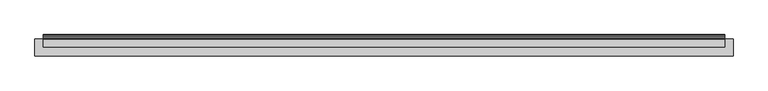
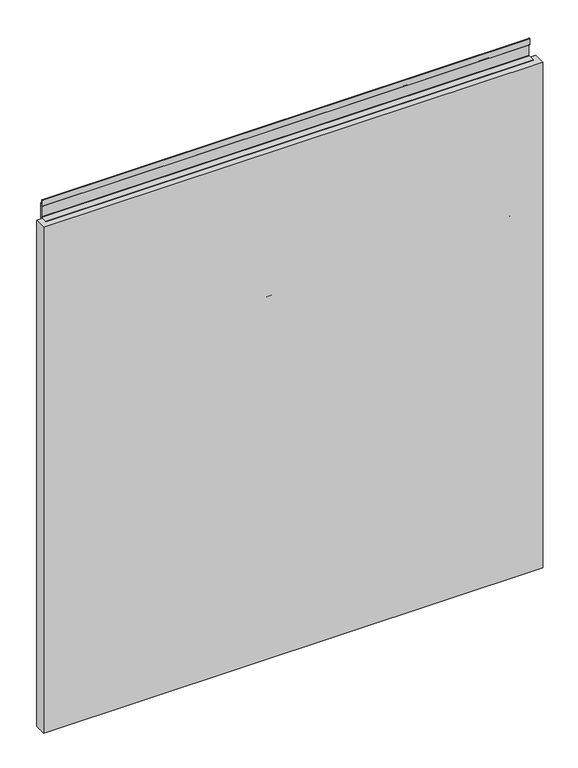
"""IFC4 building model written with IfcOpenShell, lengths in millimetres: furniture geometry, Geiger_GeigerOneCasegoods_WallTileAcceptsTileAbove : Vertical Veneer 42Wx 1.25Dx 45H."""

from ifc_helpers import new_model, si_unit, point, frame, frame_2d, origin, origin_with_axes, place, context, project, spatial, polyline, circle_curve, trimmed, segment, composite_curve, outline, extrude, source, transform, mapped, element, save


def furniture_fe314a8a(model_context):
    return source(origin(), model_context, "Body", "SweptSolid", [
        extrude(outline(composite_curve([segment(polyline([(2.8956, 809.3292), (3.7084, 808.5164), (5.588, 808.5164), (6.4008, 807.729), (6.4008, 794.3178)]), True, "CONTINUOUS"), segment(trimmed(circle_curve(frame_2d((5.5973579, 794.3271579)), 0.8034966), [point((6.4008, 794.3178))], [point((5.0292, 793.759))], False, "CARTESIAN"), True, "CONTINUOUS"), segment(polyline([(5.0292, 793.759), (3.5052, 795.283), (3.5052, 802.2172), (2.6924, 803.0046), (0.7874, 803.0046), (0.0, 803.8174), (0.0, 835.5166), (1.2954, 835.5166), (2.8956, 833.9164), (2.8956, 809.3292)]), True, "CONTINUOUS")], self_intersect=False)), frame((940.8047, 0.0, 0.0), z_axis=(1.0, 0.0, 0.0), x_axis=(0.0, 1.0, 0.0)), (0.0, 0.0, 1.0), 75.9906),
        extrude(outline(composite_curve([segment(polyline([(2.8956, 809.3292), (3.7084, 808.5164), (5.588, 808.5164), (6.4008, 807.729), (6.4008, 794.3178)]), True, "CONTINUOUS"), segment(trimmed(circle_curve(frame_2d((5.5973579, 794.3271579)), 0.8034966), [point((6.4008, 794.3178))], [point((5.0292, 793.759))], False, "CARTESIAN"), True, "CONTINUOUS"), segment(polyline([(5.0292, 793.759), (3.5052, 795.283), (3.5052, 802.2172), (2.6924, 803.0046), (0.7874, 803.0046), (0.0, 803.8174), (0.0, 835.5166), (1.2954, 835.5166), (2.8956, 833.9164), (2.8956, 809.3292)]), True, "CONTINUOUS")], self_intersect=False)), frame((49.9953, 0.0, 0.0), z_axis=(1.0, 0.0, 0.0), x_axis=(0.0, 1.0, 0.0)), (0.0, 0.0, 1.0), 76.0094),
        extrude(outline(composite_curve([segment(polyline([(3.5052, 795.283), (3.5052, 802.2172), (2.6924, 803.0046), (0.7874, 803.0046), (0.0, 803.8174), (0.0, 835.5166), (1.2954, 835.5166), (2.8956, 833.9164), (2.8956, 809.3292), (3.7084, 808.5164), (5.588, 808.5164), (6.4008, 807.729), (6.4008, 794.3178)]), True, "CONTINUOUS"), segment(trimmed(circle_curve(frame_2d((5.5973579, 794.3271579)), 0.8034966), [point((6.4008, 794.3178))], [point((5.0292, 793.759))], False, "CARTESIAN"), True, "CONTINUOUS"), segment(polyline([(5.0292, 793.759), (3.5052, 795.283)]), True, "CONTINUOUS")], self_intersect=False)), frame((495.4, 0.0, 0.0), z_axis=(1.0, 0.0, 0.0), x_axis=(0.0, 1.0, 0.0)), (0.0, 0.0, 1.0), 76.0),
        extrude(outline(composite_curve([segment(polyline([(2.8956, 801.2242), (2.8956, 794.29), (3.7084, 793.5026), (5.6134, 793.5026), (6.4008, 792.6898), (6.4008, 760.9906), (5.1054, 760.9906), (3.5052, 762.5908), (3.5052, 787.178), (2.6924, 787.9908), (0.8128, 787.9908), (0.0, 788.7782), (0.0, 802.1894)]), True, "CONTINUOUS"), segment(trimmed(circle_curve(frame_2d((0.8034421, 802.1800421)), 0.8034966), [point((0.0, 802.1894))], [point((1.3716, 802.7482))], False, "CARTESIAN"), True, "CONTINUOUS"), segment(polyline([(1.3716, 802.7482), (2.8956, 801.2242)]), True, "CONTINUOUS")], self_intersect=False)), frame((12.5, 0.0, 0.0), z_axis=(1.0, 0.0, 0.0), x_axis=(0.0, 1.0, 0.0)), (0.0, 0.0, 1.0), 1041.8),
        extrude(outline(polyline([(1066.8, 0.0), (1066.8, -26.0), (0.0, -26.0), (0.0, 0.0), (1066.8, 0.0)])), origin_with_axes(), (0.0, 0.0, 1.0), 1143.0),
        extrude(outline(composite_curve([segment(polyline([(2.8956, 46.3366), (3.7084, 45.5238), (5.588, 45.5238), (6.4008, 44.7364), (6.4008, 31.3252)]), True, "CONTINUOUS"), segment(trimmed(circle_curve(frame_2d((5.6011704, 31.3252)), 0.7996296), [point((6.4008, 31.3252))], [point((5.0292, 30.7664))], False, "CARTESIAN"), True, "CONTINUOUS"), segment(polyline([(5.0292, 30.7664), (3.5052, 32.2904), (3.5052, 39.2246), (2.6924, 40.012), (0.7874, 40.012), (0.0, 40.8248), (0.0, 72.524), (1.2954, 72.524), (2.8956, 70.9238), (2.8956, 46.3366)]), True, "CONTINUOUS")], self_intersect=False)), frame((940.8047, 0.0, 0.0), z_axis=(1.0, 0.0, 0.0), x_axis=(0.0, 1.0, 0.0)), (0.0, 0.0, 1.0), 75.9906),
        extrude(outline(composite_curve([segment(polyline([(2.8956, 46.3366), (3.7084, 45.5238), (5.588, 45.5238), (6.4008, 44.7364), (6.4008, 31.3252)]), True, "CONTINUOUS"), segment(trimmed(circle_curve(frame_2d((5.6011704, 31.3252)), 0.7996296), [point((6.4008, 31.3252))], [point((5.0292, 30.7664))], False, "CARTESIAN"), True, "CONTINUOUS"), segment(polyline([(5.0292, 30.7664), (3.5052, 32.2904), (3.5052, 39.2246), (2.6924, 40.012), (0.7874, 40.012), (0.0, 40.8248), (0.0, 72.524), (1.2954, 72.524), (2.8956, 70.9238), (2.8956, 46.3366)]), True, "CONTINUOUS")], self_intersect=False)), frame((495.4, 0.0, 0.0), z_axis=(1.0, 0.0, 0.0), x_axis=(0.0, 1.0, 0.0)), (0.0, 0.0, 1.0), 76.0),
        extrude(outline(composite_curve([segment(polyline([(3.5052, 32.2904), (3.5052, 39.2246), (2.6924, 40.012), (0.7874, 40.012), (0.0, 40.8248), (0.0, 72.524), (1.2954, 72.524), (2.8956, 70.9238), (2.8956, 46.3366), (3.7084, 45.5238), (5.588, 45.5238), (6.4008, 44.7364), (6.4008, 31.3252)]), True, "CONTINUOUS"), segment(trimmed(circle_curve(frame_2d((5.6011704, 31.3252)), 0.7996296), [point((6.4008, 31.3252))], [point((5.0292, 30.7664))], False, "CARTESIAN"), True, "CONTINUOUS"), segment(polyline([(5.0292, 30.7664), (3.5052, 32.2904)]), True, "CONTINUOUS")], self_intersect=False)), frame((49.9953, 0.0, 0.0), z_axis=(1.0, 0.0, 0.0), x_axis=(0.0, 1.0, 0.0)), (0.0, 0.0, 1.0), 76.0094),
        extrude(outline(composite_curve([segment(polyline([(2.8956, 1183.2322), (2.8956, 1176.298), (3.683, 1175.5106), (5.588, 1175.5106), (6.4008, 1174.6978), (6.4008, 1141.3984), (3.7084, 1141.3984), (2.8956, 1140.611), (2.8956, 1126.895), (3.7084, 1126.1076), (6.4008, 1126.1076), (6.4008, 1123.1866), (0.7874, 1123.1866), (0.0, 1123.9994), (0.0, 1142.9986), (-12.5984, 1142.9986), (-12.5984, 1144.5988), (2.6924, 1144.5988), (3.5052, 1145.3862), (3.5052, 1169.2114), (2.6924, 1169.9988), (0.7874, 1169.9988), (0.0, 1170.8116), (0.0, 1184.224282)]), True, "CONTINUOUS"), segment(trimmed(circle_curve(frame_2d((0.788463, 1184.224282)), 0.788463), [point((0.0, 1184.224282))], [point((1.3459905, 1184.7818095))], False, "CARTESIAN"), True, "CONTINUOUS"), segment(polyline([(1.3459905, 1184.7818095), (2.8956, 1183.2322)]), True, "CONTINUOUS")], self_intersect=False)), frame((12.5, 0.0, 0.0), z_axis=(1.0, 0.0, 0.0), x_axis=(0.0, 1.0, 0.0)), (0.0, 0.0, 1.0), 1041.8),
        extrude(outline(composite_curve([segment(polyline([(2.8956, 809.3292), (3.7084, 808.5164), (5.588, 808.5164), (6.4008, 807.729), (6.4008, 794.3178)]), True, "CONTINUOUS"), segment(trimmed(circle_curve(frame_2d((5.5973579, 794.3271579)), 0.8034966), [point((6.4008, 794.3178))], [point((5.0292, 793.759))], False, "CARTESIAN"), True, "CONTINUOUS"), segment(polyline([(5.0292, 793.759), (3.5052, 795.283), (3.5052, 802.2172), (2.6924, 803.0046), (0.7874, 803.0046), (0.0, 803.8174), (0.0, 835.5166), (1.2954, 835.5166), (2.8956, 833.9164), (2.8956, 809.3292)]), True, "CONTINUOUS")], self_intersect=False)), frame((940.8047, 0.0, 0.0), z_axis=(1.0, 0.0, 0.0), x_axis=(0.0, 1.0, 0.0)), (0.0, 0.0, 1.0), 75.9906),
    ])


if __name__ == "__main__":
    model = new_model("IFC4")
    model_context = context("Model", 3, world=origin())
    ifc_project = project(units=[si_unit("LENGTHUNIT", "METRE", prefix="MILLI")], contexts=[model_context])
    site = spatial("IfcSite", under=ifc_project)
    building = spatial("IfcBuilding", under=site)
    placement = place(None, origin())
    furniture_shape = furniture_fe314a8a(model_context)
    element("IfcFurniture", 1, ObjectType="Geiger_GeigerOneCasegoods_WallTileAcceptsTileAbove : Vertical Veneer 42Wx 1.25Dx 45H", at=placement, inside=building, context=model_context, shape_type="MappedRepresentation", body=[
        mapped(furniture_shape, transform((0.0, 0.0, 0.0), x_axis=(1.0, 0.0, 0.0), y_axis=(0.0, 1.0, 0.0), z_axis=(0.0, 0.0, 1.0))),
    ])
    save(model, "model.ifc")
